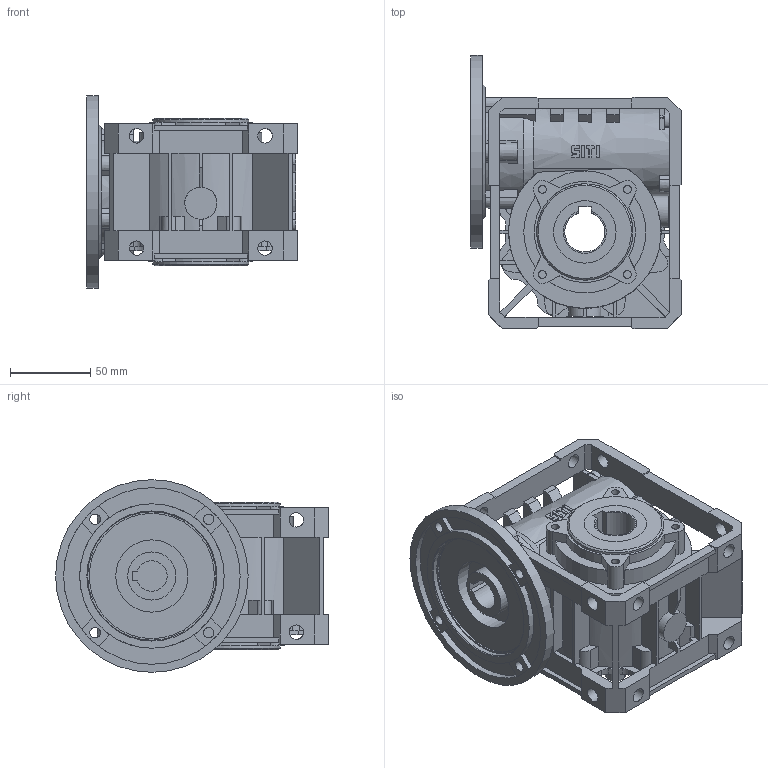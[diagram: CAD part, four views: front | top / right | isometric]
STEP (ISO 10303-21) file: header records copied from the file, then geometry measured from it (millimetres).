
FILE_DESCRIPTION (( 'STEP AP203' ), '1' );
FILE_NAME ('MU50 PAM 80 B14.STEP', '2016-03-10T08:38:47', ( 'm.piscopiello' ), ( '' ), 'SwSTEP 2.0', 'SolidWorks 2015', '' );
FILE_SCHEMA (( 'CONFIG_CONTROL_DESIGN' ));
Length unit declared in the file: millimetre
Products named in the file (1): MU50 PAM 80 B14
Bounding box: 131 x 170 x 120 mm (x, y, z)
Volume: 947425.4 mm3; surface area: 162727.3 mm2
Topology: 1 solids, 7 shells, 727 faces, 2164 edges, 1426 vertices
Faces by surface type: plane 483, cylinder 195, cone 49
Full cylindrical faces by diameter (mm): 4.5 x4, 4.917 x10, 5.37 x4, 6.5 x4, 9 x14, 20 x1, 30 x1, 45 x1, 60 x2, 78 x1, 80 x1, 90 x1, 110 x1, 120 x1
Entity records: 26895 total; most frequent: CARTESIAN_POINT 7549, ORIENTED_EDGE 4164, DIRECTION 3803, EDGE_CURVE 2082, VERTEX_POINT 1400, LINE 1323, VECTOR 1323, AXIS2_PLACEMENT_3D 1240
